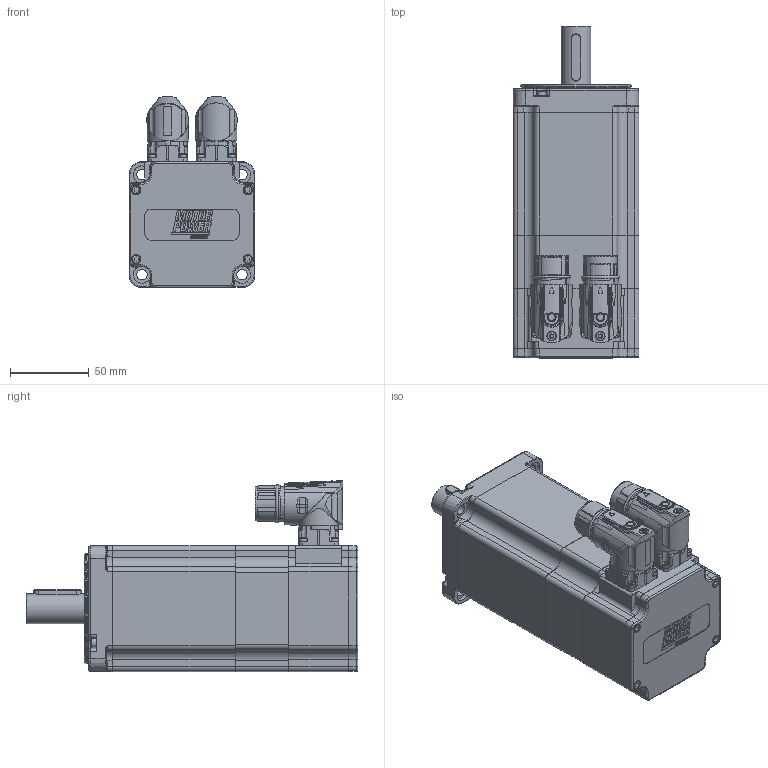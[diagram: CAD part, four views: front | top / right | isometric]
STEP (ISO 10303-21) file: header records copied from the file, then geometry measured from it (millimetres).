
FILE_DESCRIPTION(/* description */ ('Unknown'),/* implementation_level */ '2;1');
FILE_NAME(/* name */ 'TC4-80.3B.XX.X.3.M1.1.1.G2.33.80 Q0D209',/* time_stamp */ '2026-03-04T10:33:25+01:00',/* author */ ('Unknown'),/* organization */ ('Unknown'),/* preprocessor_version */ 'ST-DEVELOPER v19.4',/* originating_system */ 'Solid Edge',/* authorisation */ 'Unknown');
FILE_SCHEMA (('AUTOMOTIVE_DESIGN {1 0 10303 214 3 1 1}'));
Products named in the file (14): Q0D209 3B FRENO M1 VUOTO; 003103040223; N27294 mod; 005119001500; 005911000192; 003003200454; 003107003286; 005113000500; 005911000185; 007117000456; 007117000454; 003251040719; 005911000202; 003151003147
Assembly tree (26 placements, depth 2):
  Q0D209 3B FRENO M1 VUOTO
    003103040223
    N27294 mod
    005119001500
    005911000192  x4
    003003200454
    003107003286
    005113000500
    005911000185  x8
    007117000456
    007117000454
    003251040719
    005911000202  x4
    003151003147
Bounding box: 80 x 211 x 121.5 mm (x, y, z)
Volume: 419141.1 mm3; surface area: 195738.1 mm2
Topology: 28 solids, 28 shells, 2283 faces, 5715 edges, 3667 vertices
Faces by surface type: plane 984, cylinder 571, bspline 290, cone 271, torus 118, sphere 49
Full cylindrical faces by diameter (mm): 0.5 x1, 1 x21, 1.2 x17, 1.4 x4, 2 x4, 2.013 x12, 2.459 x36, 2.5 x9, 2.8 x4, 3 x20, 3.2 x1, 3.5 x14, 4.5 x2, 4.7 x8, 4.917 x1, 5.5 x10, 5.8 x1, 5.9 x2, 6 x5, 6.4 x1, 6.5 x4, 6.6 x4, 6.8 x1, 7 x4, 10 x1, 11 x4, 15 x2, 15.2 x1, 17 x1, 17.4 x3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
Entity records: 80649 total; most frequent: CARTESIAN_POINT 22106, ORIENTED_EDGE 9522, DIRECTION 8962, EDGE_CURVE 4761, AXIS2_PLACEMENT_3D 3443, VERTEX_POINT 3291, FACE_BOUND 2766, EDGE_LOOP 2737
